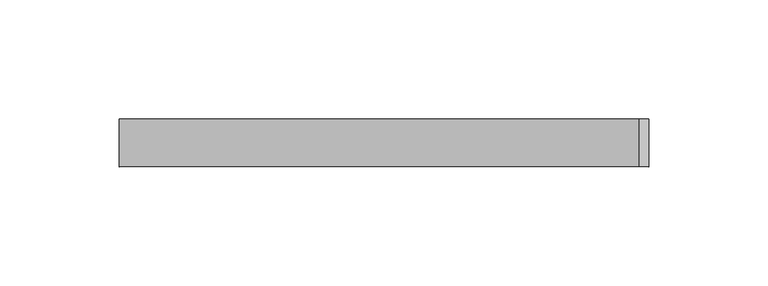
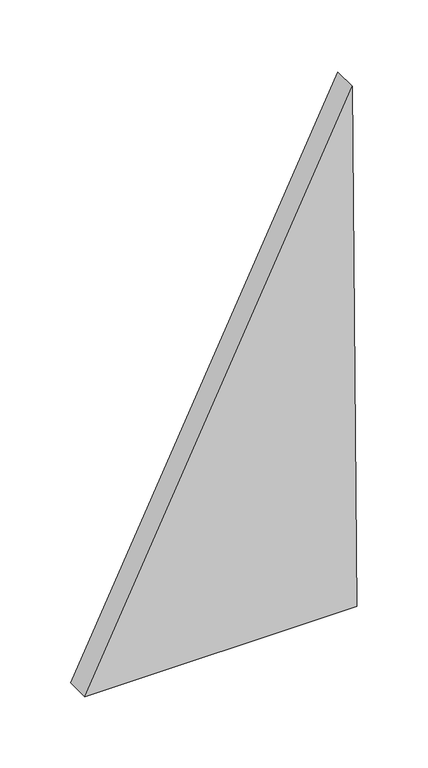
"""IFC4 building model written with IfcOpenShell, lengths in millimetres: plate geometry, 空系统嵌板 : 空."""

from ifc_helpers import new_model, si_unit, frame, origin, place, context, project, spatial, polyline, outline, extrude, source, transform, mapped, element, save


def plate_d3f52e52(model_context):
    return source(origin(), model_context, "Body", "SweptSolid", [
        extrude(outline(polyline([(0.0, -111.0236654), (0.2824465, 111.0236654), (450.759006, 107.0768368), (0.0, -111.0236654)])), frame((0.0, -10.0, 0.0), z_axis=(0.0, 1.0, 0.0), x_axis=(0.0, 0.0, 1.0)), (0.0, 0.0, 1.0), 20.0),
    ])


if __name__ == "__main__":
    model = new_model("IFC4")
    model_context = context("Model", 3, world=origin())
    ifc_project = project(units=[si_unit("LENGTHUNIT", "METRE", prefix="MILLI")], contexts=[model_context])
    site = spatial("IfcSite", under=ifc_project)
    building = spatial("IfcBuilding", under=site)
    placement = place(None, origin())
    plate_shape = plate_d3f52e52(model_context)
    element("IfcPlate", 1, ObjectType="空系统嵌板 : 空", at=placement, inside=building, context=model_context, shape_type="MappedRepresentation", body=[
        mapped(plate_shape, transform((0.0, 0.0, 0.0), x_axis=(1.0, 0.0, 0.0), y_axis=(0.0, 1.0, 0.0), z_axis=(0.0, 0.0, 1.0))),
    ])
    save(model, "model.ifc")
